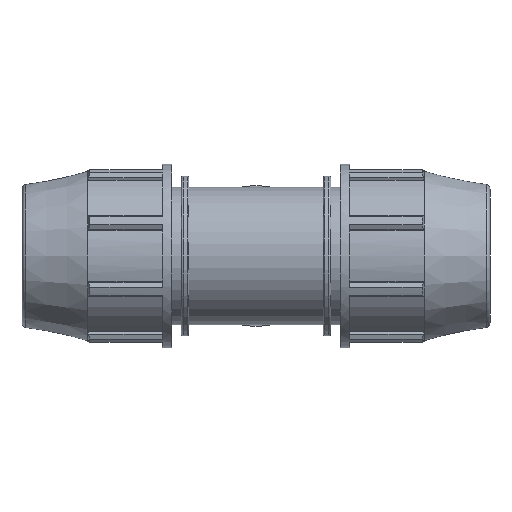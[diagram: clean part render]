
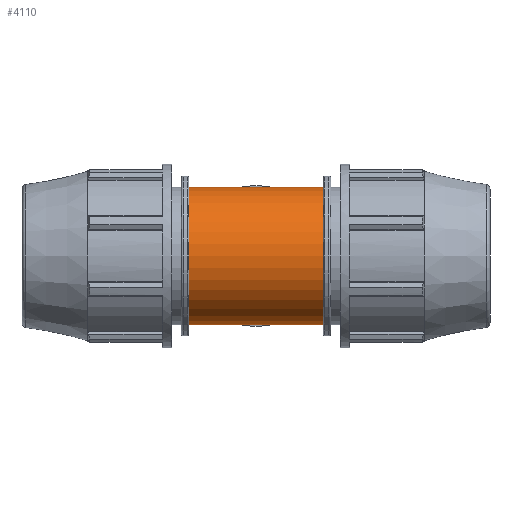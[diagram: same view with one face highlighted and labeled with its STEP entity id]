
A CAD part, front view. The second image highlights one B-rep face of the part: STEP entity #4110.
In plain terms, the highlighted cylindrical face has radius 30.766 mm (diameter 61.531 mm), a full revolution.
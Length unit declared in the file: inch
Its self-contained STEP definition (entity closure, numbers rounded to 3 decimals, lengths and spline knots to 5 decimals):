
#228=FACE_BOUND('',#455,.T.);
#246=FACE_OUTER_BOUND('',#454,.T.);
#454=EDGE_LOOP('',(#2631,#2632,#2633,#2634,#2635,#2636));
#455=EDGE_LOOP('',(#2637,#2638));
#679=B_SPLINE_CURVE_WITH_KNOTS('',3,(#6003,#6004,#6005,#6006,#6007,#6008,
#6009,#6010,#6011,#6012,#6013,#6014,#6015,#6016,#6017,#6018,#6019,#6020),
 .UNSPECIFIED.,.F.,.F.,(4,2,2,2,2,2,2,2,4),(0.,0.47861,0.95722,
1.43584,1.91445,2.3815,2.84855,3.3156,
3.78265),.UNSPECIFIED.);
#680=B_SPLINE_CURVE_WITH_KNOTS('',3,(#6021,#6022,#6023,#6024,#6025,#6026,
#6027,#6028,#6029,#6030,#6031,#6032,#6033,#6034,#6035,#6036,#6037,#6038,
#6039,#6040,#6041,#6042,#6043,#6044,#6045,#6046,#6047,#6048,#6049,#6050,
#6051,#6052,#6053,#6054,#6055,#6056,#6057,#6058,#6059,#6060,#6061,#6062,
#6063,#6064,#6065,#6066,#6067,#6068,#6069,#6070),.UNSPECIFIED.,.F.,.F.,
(4,2,2,2,2,2,2,2,2,2,2,2,2,2,2,2,2,2,2,2,2,2,2,2,4),(3.78265,4.2497,
4.71675,5.1838,5.65085,6.12946,6.60807,
7.08668,7.5653,8.04391,8.52252,9.00113,
9.47974,9.94679,10.41384,10.88089,11.34794,
11.815,12.28205,12.7491,13.21615,13.69476,
14.17337,14.65198,15.13059),.UNSPECIFIED.);
#690=LINE('',#5997,#1026);
#1026=VECTOR('',#4786,1.21125);
#1365=CIRCLE('',#4343,1.21125);
#1366=CIRCLE('',#4344,1.21125);
#1367=CIRCLE('',#4345,1.21125);
#1368=CIRCLE('',#4346,1.21125);
#1588=VERTEX_POINT('',#5992);
#1589=VERTEX_POINT('',#5993);
#1590=VERTEX_POINT('',#5996);
#1591=VERTEX_POINT('',#5998);
#1592=VERTEX_POINT('',#6001);
#1593=VERTEX_POINT('',#6002);
#2013=EDGE_CURVE('',#1588,#1589,#1365,.T.);
#2014=EDGE_CURVE('',#1589,#1588,#1366,.T.);
#2015=EDGE_CURVE('',#1589,#1590,#690,.T.);
#2016=EDGE_CURVE('',#1590,#1591,#1367,.T.);
#2017=EDGE_CURVE('',#1591,#1590,#1368,.T.);
#2018=EDGE_CURVE('',#1592,#1593,#679,.T.);
#2019=EDGE_CURVE('',#1593,#1592,#680,.T.);
#2631=ORIENTED_EDGE('',*,*,#2013,.F.);
#2632=ORIENTED_EDGE('',*,*,#2014,.F.);
#2633=ORIENTED_EDGE('',*,*,#2015,.T.);
#2634=ORIENTED_EDGE('',*,*,#2016,.T.);
#2635=ORIENTED_EDGE('',*,*,#2017,.T.);
#2636=ORIENTED_EDGE('',*,*,#2015,.F.);
#2637=ORIENTED_EDGE('',*,*,#2018,.F.);
#2638=ORIENTED_EDGE('',*,*,#2019,.F.);
#3859=CYLINDRICAL_SURFACE('',#4342,1.21125);
#4110=ADVANCED_FACE('',(#246,#228),#3859,.T.);
#4342=AXIS2_PLACEMENT_3D('',#5991,#4780,#4781);
#4343=AXIS2_PLACEMENT_3D('',#5994,#4782,#4783);
#4344=AXIS2_PLACEMENT_3D('',#5995,#4784,#4785);
#4345=AXIS2_PLACEMENT_3D('',#5999,#4787,#4788);
#4346=AXIS2_PLACEMENT_3D('',#6000,#4789,#4790);
#4780=DIRECTION('center_axis',(1.,0.,0.));
#4781=DIRECTION('ref_axis',(0.,1.,0.));
#4782=DIRECTION('center_axis',(1.,0.,0.));
#4783=DIRECTION('ref_axis',(0.,0.,-1.));
#4784=DIRECTION('center_axis',(1.,0.,0.));
#4785=DIRECTION('ref_axis',(0.,0.,-1.));
#4786=DIRECTION('',(-1.,0.,0.));
#4787=DIRECTION('center_axis',(1.,0.,0.));
#4788=DIRECTION('ref_axis',(0.,0.,-1.));
#4789=DIRECTION('center_axis',(1.,0.,0.));
#4790=DIRECTION('ref_axis',(0.,0.,-1.));
#5991=CARTESIAN_POINT('Origin',(0.83672,0.,0.));
#5992=CARTESIAN_POINT('',(1.17963,1.21125,0.));
#5993=CARTESIAN_POINT('',(1.17963,-1.21125,0.));
#5994=CARTESIAN_POINT('Origin',(1.17963,0.,0.));
#5995=CARTESIAN_POINT('Origin',(1.17963,0.,0.));
#5996=CARTESIAN_POINT('',(-1.17963,-1.21125,0.));
#5997=CARTESIAN_POINT('',(0.83672,-1.21125,0.));
#5998=CARTESIAN_POINT('',(-1.17963,1.21125,0.));
#5999=CARTESIAN_POINT('Origin',(-1.17963,0.,0.));
#6000=CARTESIAN_POINT('Origin',(-1.17963,0.,0.));
#6001=CARTESIAN_POINT('',(0.,0.77603,0.93));
#6002=CARTESIAN_POINT('',(0.93,1.21125,0.));
#6003=CARTESIAN_POINT('Ctrl Pts',(0.,0.77603,
0.93));
#6004=CARTESIAN_POINT('Ctrl Pts',(0.06281,0.77603,
0.93));
#6005=CARTESIAN_POINT('Ctrl Pts',(0.12562,0.78389,0.92358));
#6006=CARTESIAN_POINT('Ctrl Pts',(0.24773,0.81245,0.89856));
#6007=CARTESIAN_POINT('Ctrl Pts',(0.30706,0.83301,0.87997));
#6008=CARTESIAN_POINT('Ctrl Pts',(0.41968,0.88077,0.83217));
#6009=CARTESIAN_POINT('Ctrl Pts',(0.47307,0.90794,0.80291));
#6010=CARTESIAN_POINT('Ctrl Pts',(0.57184,0.9631,0.73584));
#6011=CARTESIAN_POINT('Ctrl Pts',(0.61722,0.99108,0.698));
#6012=CARTESIAN_POINT('Ctrl Pts',(0.69703,1.04267,0.61819));
#6013=CARTESIAN_POINT('Ctrl Pts',(0.73464,1.06834,0.57339));
#6014=CARTESIAN_POINT('Ctrl Pts',(0.80196,1.11571,0.47468));
#6015=CARTESIAN_POINT('Ctrl Pts',(0.83168,1.13739,0.42078));
#6016=CARTESIAN_POINT('Ctrl Pts',(0.88012,1.17328,0.30679));
#6017=CARTESIAN_POINT('Ctrl Pts',(0.8989,1.18751,0.24658));
#6018=CARTESIAN_POINT('Ctrl Pts',(0.92384,1.2065,0.12383));
#6019=CARTESIAN_POINT('Ctrl Pts',(0.93,1.21125,0.06129));
#6020=CARTESIAN_POINT('Ctrl Pts',(0.93,1.21125,0.));
#6021=CARTESIAN_POINT('Ctrl Pts',(0.93,1.21125,0.));
#6022=CARTESIAN_POINT('Ctrl Pts',(0.93,1.21125,-0.06129));
#6023=CARTESIAN_POINT('Ctrl Pts',(0.92384,1.2065,-0.12383));
#6024=CARTESIAN_POINT('Ctrl Pts',(0.8989,1.18751,-0.24658));
#6025=CARTESIAN_POINT('Ctrl Pts',(0.88012,1.17328,-0.30679));
#6026=CARTESIAN_POINT('Ctrl Pts',(0.83168,1.13739,-0.42078));
#6027=CARTESIAN_POINT('Ctrl Pts',(0.80196,1.11571,-0.47468));
#6028=CARTESIAN_POINT('Ctrl Pts',(0.73464,1.06834,-0.57339));
#6029=CARTESIAN_POINT('Ctrl Pts',(0.69703,1.04267,-0.61819));
#6030=CARTESIAN_POINT('Ctrl Pts',(0.61722,0.99108,-0.698));
#6031=CARTESIAN_POINT('Ctrl Pts',(0.57184,0.9631,-0.73584));
#6032=CARTESIAN_POINT('Ctrl Pts',(0.47307,0.90794,-0.80291));
#6033=CARTESIAN_POINT('Ctrl Pts',(0.41968,0.88077,-0.83217));
#6034=CARTESIAN_POINT('Ctrl Pts',(0.30706,0.83301,-0.87997));
#6035=CARTESIAN_POINT('Ctrl Pts',(0.24773,0.81245,-0.89856));
#6036=CARTESIAN_POINT('Ctrl Pts',(0.12562,0.78389,-0.92358));
#6037=CARTESIAN_POINT('Ctrl Pts',(0.06281,0.77603,
-0.93));
#6038=CARTESIAN_POINT('Ctrl Pts',(-0.06281,0.77603,
-0.93));
#6039=CARTESIAN_POINT('Ctrl Pts',(-0.12562,0.78389,-0.92358));
#6040=CARTESIAN_POINT('Ctrl Pts',(-0.24773,0.81245,
-0.89856));
#6041=CARTESIAN_POINT('Ctrl Pts',(-0.30706,0.83301,
-0.87997));
#6042=CARTESIAN_POINT('Ctrl Pts',(-0.41968,0.88077,
-0.83217));
#6043=CARTESIAN_POINT('Ctrl Pts',(-0.47307,0.90794,
-0.80291));
#6044=CARTESIAN_POINT('Ctrl Pts',(-0.57184,0.9631,
-0.73584));
#6045=CARTESIAN_POINT('Ctrl Pts',(-0.61722,0.99108,-0.698));
#6046=CARTESIAN_POINT('Ctrl Pts',(-0.69703,1.04267,-0.61819));
#6047=CARTESIAN_POINT('Ctrl Pts',(-0.73464,1.06834,-0.57339));
#6048=CARTESIAN_POINT('Ctrl Pts',(-0.80196,1.11571,-0.47468));
#6049=CARTESIAN_POINT('Ctrl Pts',(-0.83168,1.13739,-0.42078));
#6050=CARTESIAN_POINT('Ctrl Pts',(-0.88012,1.17328,-0.30679));
#6051=CARTESIAN_POINT('Ctrl Pts',(-0.8989,1.18751,-0.24658));
#6052=CARTESIAN_POINT('Ctrl Pts',(-0.92384,1.2065,-0.12383));
#6053=CARTESIAN_POINT('Ctrl Pts',(-0.93,1.21125,-0.06129));
#6054=CARTESIAN_POINT('Ctrl Pts',(-0.93,1.21125,0.06129));
#6055=CARTESIAN_POINT('Ctrl Pts',(-0.92384,1.2065,0.12383));
#6056=CARTESIAN_POINT('Ctrl Pts',(-0.8989,1.18751,0.24658));
#6057=CARTESIAN_POINT('Ctrl Pts',(-0.88012,1.17328,0.30679));
#6058=CARTESIAN_POINT('Ctrl Pts',(-0.83168,1.13739,0.42078));
#6059=CARTESIAN_POINT('Ctrl Pts',(-0.80196,1.11571,0.47468));
#6060=CARTESIAN_POINT('Ctrl Pts',(-0.73464,1.06834,0.57339));
#6061=CARTESIAN_POINT('Ctrl Pts',(-0.69703,1.04267,0.61819));
#6062=CARTESIAN_POINT('Ctrl Pts',(-0.61722,0.99108,0.698));
#6063=CARTESIAN_POINT('Ctrl Pts',(-0.57184,0.9631,
0.73584));
#6064=CARTESIAN_POINT('Ctrl Pts',(-0.47307,0.90794,
0.80291));
#6065=CARTESIAN_POINT('Ctrl Pts',(-0.41968,0.88077,
0.83217));
#6066=CARTESIAN_POINT('Ctrl Pts',(-0.30706,0.83301,
0.87997));
#6067=CARTESIAN_POINT('Ctrl Pts',(-0.24773,0.81245,
0.89856));
#6068=CARTESIAN_POINT('Ctrl Pts',(-0.12562,0.78389,0.92358));
#6069=CARTESIAN_POINT('Ctrl Pts',(-0.06281,0.77603,
0.93));
#6070=CARTESIAN_POINT('Ctrl Pts',(0.,0.77603,0.93));
